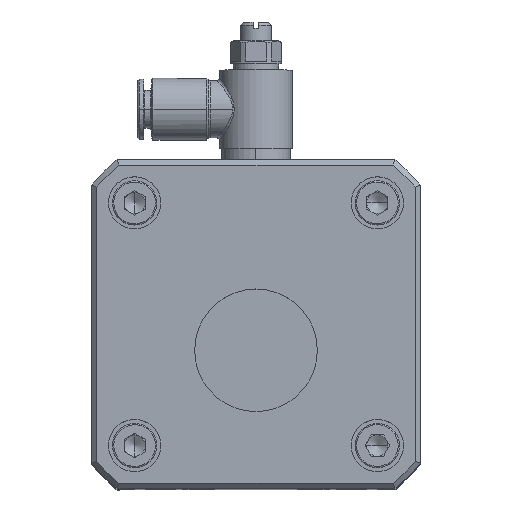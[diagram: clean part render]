
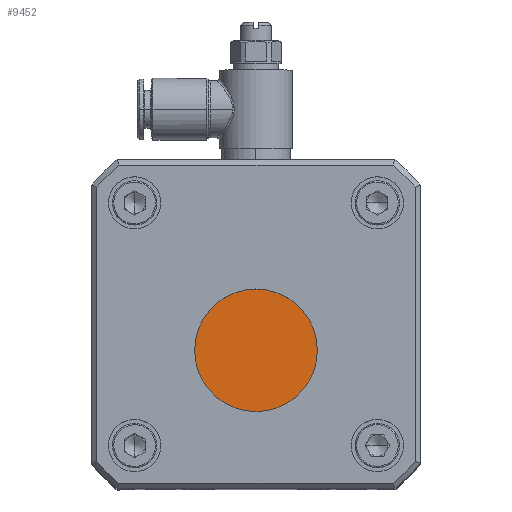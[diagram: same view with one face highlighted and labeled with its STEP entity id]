
A CAD part, top view. The second image highlights one B-rep face of the part: STEP entity #9452.
In plain terms, the highlighted planar face has unit normal (0, 0, 1).
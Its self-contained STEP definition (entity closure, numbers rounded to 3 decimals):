
#1492 = DIRECTION ( 'NONE',  ( 1., 0., 0. ) ) ;
#6118 = DIRECTION ( 'NONE',  ( 1., 0., 0. ) ) ;
#8568 = EDGE_CURVE ( 'NONE', #33646, #31560, #29176, .T. ) ;
#9452 = ADVANCED_FACE ( 'NONE', ( #13898 ), #26920, .T. ) ;
#10959 = ORIENTED_EDGE ( 'NONE', *, *, #17002, .T. ) ;
#11231 = EDGE_LOOP ( 'NONE', ( #29709, #10959 ) ) ;
#12044 = CARTESIAN_POINT ( 'NONE',  ( -30.4, 13.8, 41. ) ) ;
#12346 = AXIS2_PLACEMENT_3D ( 'NONE', #33242, #36287, #17863 ) ;
#13898 = FACE_OUTER_BOUND ( 'NONE', #11231, .T. ) ;
#17002 = EDGE_CURVE ( 'NONE', #31560, #33646, #17437, .T. ) ;
#17437 = CIRCLE ( 'NONE', #18483, 11.75 ) ;
#17621 = CARTESIAN_POINT ( 'NONE',  ( 11.75, -5., 41. ) ) ;
#17863 = DIRECTION ( 'NONE',  ( 1., 0., 0. ) ) ;
#18483 = AXIS2_PLACEMENT_3D ( 'NONE', #31826, #25338, #1492 ) ;
#21144 = DIRECTION ( 'NONE',  ( 0., 0., 1. ) ) ;
#25338 = DIRECTION ( 'NONE',  ( 0., 0., 1. ) ) ;
#26920 = PLANE ( 'NONE',  #38993 ) ;
#29176 = CIRCLE ( 'NONE', #12346, 11.75 ) ;
#29709 = ORIENTED_EDGE ( 'NONE', *, *, #8568, .T. ) ;
#31560 = VERTEX_POINT ( 'NONE', #33528 ) ;
#31826 = CARTESIAN_POINT ( 'NONE',  ( 0., -5., 41. ) ) ;
#33242 = CARTESIAN_POINT ( 'NONE',  ( 0., -5., 41. ) ) ;
#33528 = CARTESIAN_POINT ( 'NONE',  ( -11.75, -5., 41. ) ) ;
#33646 = VERTEX_POINT ( 'NONE', #17621 ) ;
#36287 = DIRECTION ( 'NONE',  ( 0., 0., 1. ) ) ;
#38993 = AXIS2_PLACEMENT_3D ( 'NONE', #12044, #21144, #6118 ) ;
